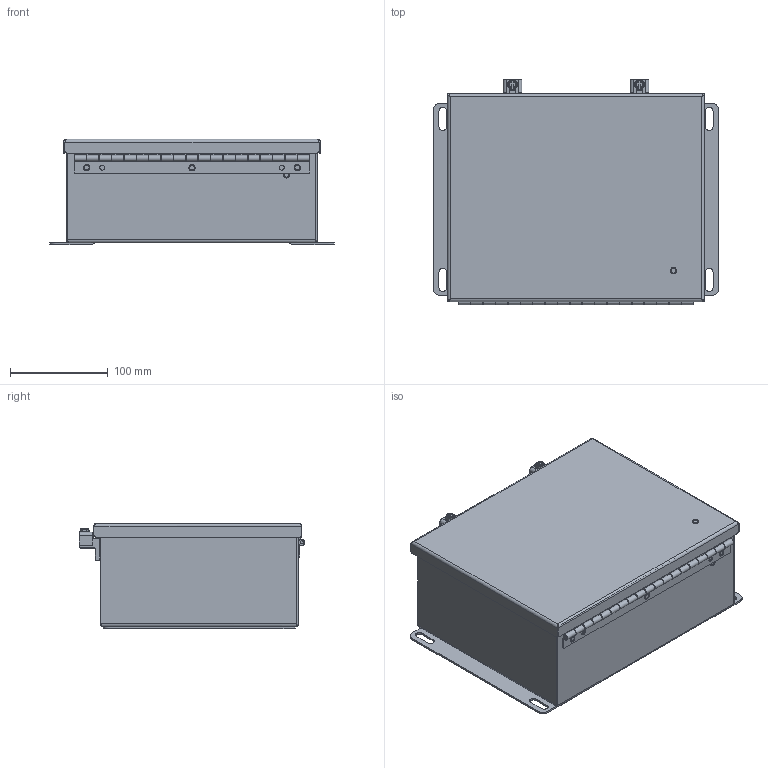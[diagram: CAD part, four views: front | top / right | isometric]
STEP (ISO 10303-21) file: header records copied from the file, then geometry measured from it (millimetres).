
FILE_DESCRIPTION((''),'2;1');
FILE_NAME('MODEL-332_ASM','2025-07-02T08:05:08',('joshi'),('SAGINAW CONTROL & ENGINEERING'),'CREO PARAMETRIC BY PTC INC, 2021284','CREO PARAMETRIC BY PTC INC, 2021284','');
FILE_SCHEMA(('AUTOMOTIVE_DESIGN { 1 0 10303 214 1 1 1 1 }'));
Length unit declared in the file: inch
Products named in the file (22): MODEL-332-BDY; MODEL-332-DR; 100097; 100012; 125828-BASE; 125828-PEM-STUD; 125828-CLAMP; 125828-BOLT; 125828_ASM; 100897; 130028; 122255; MODEL-332-HNG-PN; MODEL-332-HNG-BX; MODEL-332-HNG-DR; 100067; MODEL-332-HNG_ASM; MODEL-332-GSKT; CH-ELJ_SUBPANEL; 102479; CH-ELJ_SUBPANEL-SUBASSEMBLY_ASM; MODEL-332_ASM
Assembly tree (36 placements, depth 3):
  MODEL-332_ASM
    MODEL-332-BDY
    MODEL-332-DR
    100097  x2
    100012  x4
    125828_ASM  x2
      125828-BASE
      125828-PEM-STUD
      125828-CLAMP
      125828-BOLT
    100897  x5
    130028  x2
    122255
    MODEL-332-HNG_ASM
      MODEL-332-HNG-PN
      MODEL-332-HNG-BX
      MODEL-332-HNG-DR
      100067  x3
    MODEL-332-GSKT
    CH-ELJ_SUBPANEL-SUBASSEMBLY_ASM
      CH-ELJ_SUBPANEL
      102479  x4
Bounding box: 292.1 x 231.25 x 108.33 mm (x, y, z)
Volume: 508286.5 mm3; surface area: 617050.3 mm2
Topology: 35 solids, 35 shells, 1803 faces, 4444 edges, 2664 vertices
Faces by surface type: plane 779, cylinder 594, bspline 214, torus 110, sphere 56, cone 50
Entity records: 54975 total; most frequent: CARTESIAN_POINT 18703, ORIENTED_EDGE 5146, DIRECTION 5041, PRESENTATION_STYLE_ASSIGNMENT 2590, STYLED_ITEM 2590, CURVE_STYLE 2573, EDGE_CURVE 2573, AXIS2_PLACEMENT_3D 1756
